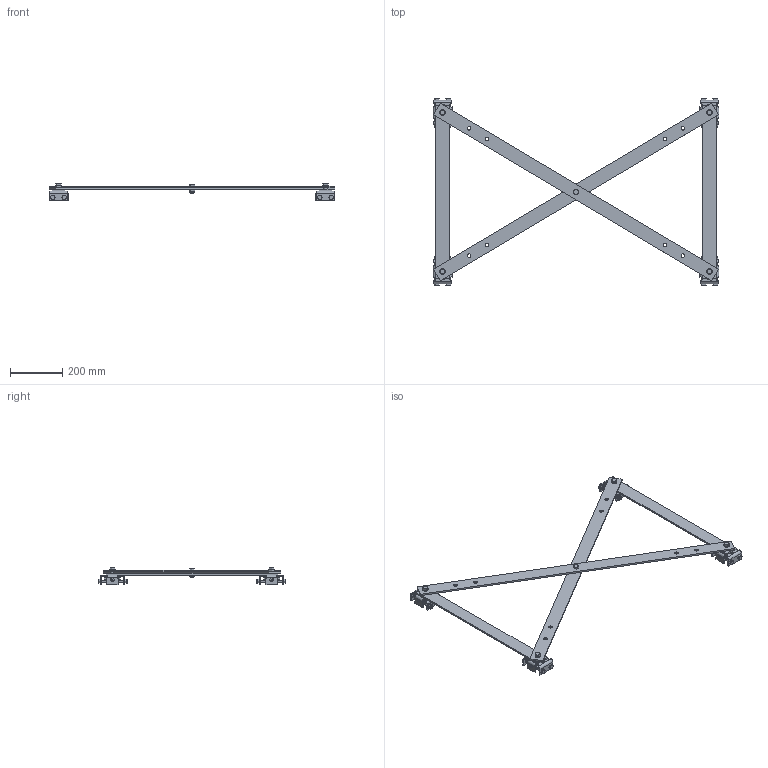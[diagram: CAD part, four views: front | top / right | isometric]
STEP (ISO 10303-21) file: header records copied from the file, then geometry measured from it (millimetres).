
FILE_DESCRIPTION(/* description */ (''),/* implementation_level */ '2;1');
FILE_NAME(/* name */ 'MRAA4205-24.001.stp',/* time_stamp */ '2019-04-02T15:14:48-04:00',/* author */ (''),/* organization */ (''),/* preprocessor_version */ 'ST-DEVELOPER v16',/* originating_system */ 'SIEMENS PLM Software NX 11.0',/* authorisation */ '');
FILE_SCHEMA (('AUTOMOTIVE_DESIGN { 1 0 10303 214 3 1 1 1 }'));
Length unit declared in the file: millimetre
Products named in the file (1): MRAA4205-24.001
Bounding box: 1095.36 x 714.48 x 66.06 mm (x, y, z)
Volume: 1659793.9 mm3; surface area: 648748.4 mm2
Topology: 42 solids, 42 shells, 865 faces, 1965 edges, 1202 vertices
Faces by surface type: plane 410, cylinder 241, torus 107, cone 91, bspline 16
Full cylindrical faces by diameter (mm): 10 x16, 10.2 x4, 10.319 x16, 12 x6, 13.494 x38, 15.875 x4, 16.67 x4, 16.75 x8, 18.8 x1
Entity records: 32236 total; most frequent: CARTESIAN_POINT 7324, DIRECTION 3694, ORIENTED_EDGE 3652, EDGE_CURVE 1826, AXIS2_PLACEMENT_3D 1442, VERTEX_POINT 1184, EDGE_LOOP 1146, PRESENTATION_STYLE_ASSIGNMENT 907
